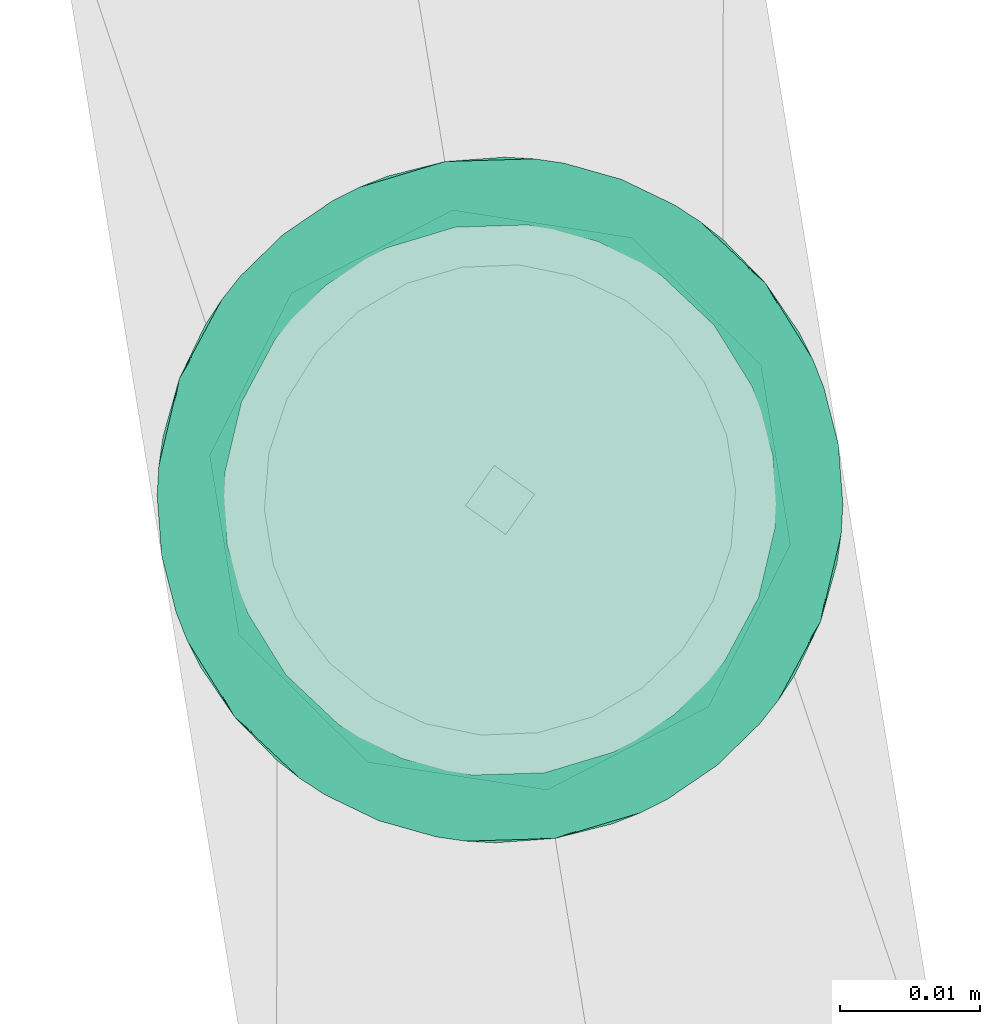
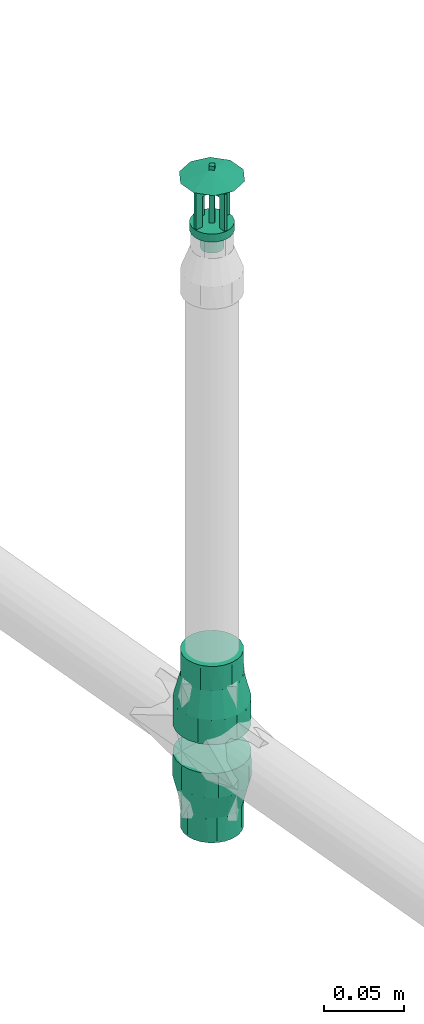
# One storey, part 34 of 56: 2 flow fittings, 1 flow terminal.
"""IFC2X3 building model written with IfcOpenShell, lengths in millimetres."""

from ifc_helpers import new_model, entity, si_unit, converted_unit, derived_unit, direction, frame, origin, origin_with_axes, place, context, subcontext, project, spatial, faceted_brep, source, transform, mapped, material, type_object, element, save


model = new_model("IFC2X3")

# Units and contexts
model_context = context("Model", 3, precision=0.01, world=origin(), true_north=direction((6.12323399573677e-17, 1.0)))
plan_context = context("Plan", 3, precision=1e-05, world=origin_with_axes())
body_context = subcontext(model_context, "Body", "Model", "MODEL_VIEW")
ifc_project = project(units=[converted_unit("PLANEANGLEUNIT", "DEGREE", entity("IfcPositiveLengthMeasure", 0.0174532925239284), si_unit("PLANEANGLEUNIT", "RADIAN"), dimensions=[0, 0, 0, 0, 0, 0, 0]), si_unit("AREAUNIT", "SQUARE_METRE"), si_unit("LENGTHUNIT", "METRE", prefix="MILLI"), si_unit("MASSUNIT", "GRAM", prefix="KILO"), si_unit("POWERUNIT", "WATT"), si_unit("PRESSUREUNIT", "PASCAL", prefix="KILO"), si_unit("FORCEUNIT", "NEWTON", prefix="KILO"), si_unit("ELECTRICVOLTAGEUNIT", "VOLT"), si_unit("ELECTRICCURRENTUNIT", "AMPERE"), si_unit("THERMODYNAMICTEMPERATUREUNIT", "DEGREE_CELSIUS"), si_unit("TIMEUNIT", "SECOND"), si_unit("VOLUMEUNIT", "CUBIC_METRE"), derived_unit("LINEARVELOCITYUNIT", [(si_unit("LENGTHUNIT", "METRE"), 1), (si_unit("TIMEUNIT", "SECOND"), -1)]), derived_unit("VOLUMETRICFLOWRATEUNIT", [(si_unit("VOLUMEUNIT", "CUBIC_METRE"), 1), (si_unit("TIMEUNIT", "SECOND"), -1)]), derived_unit("THERMALTRANSMITTANCEUNIT", [(si_unit("POWERUNIT", "WATT"), 1), (si_unit("THERMODYNAMICTEMPERATUREUNIT", "KELVIN"), -1), (si_unit("AREAUNIT", "SQUARE_METRE"), -1)]), derived_unit("SOUNDPRESSUREUNIT", [(si_unit("PRESSUREUNIT", "PASCAL"), 1)])], contexts=[model_context, plan_context])

# Site, building, storey
site_placement = place(None, frame((-3.09682673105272e-06, 1.93776733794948e-05, 0.0), z_axis=(0.0, 0.0, 1.0), x_axis=(-0.160806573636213, 0.986985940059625, 0.0)))
site = spatial("IfcSite", under=ifc_project, at=site_placement, Name="Default", CompositionType="ELEMENT")
building_placement = place(site_placement, frame((0.0, 0.0, 0.0), z_axis=(0.0, 0.0, 1.0), x_axis=(1.0, -2.77555756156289e-17, 0.0)))
building = spatial("IfcBuilding", under=site, at=building_placement, Name="Bygning (endres i Project Information)", CompositionType="ELEMENT")
storey_placement = place(building_placement, frame((0.0, 0.0, 51360.0000000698), z_axis=(0.0, 0.0, 1.0), x_axis=(1.0, -2.77555756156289e-17, 0.0)))
storey = spatial("IfcBuildingStorey", under=building, at=storey_placement, Name="H01-Nivå D+0,36", CompositionType="ELEMENT", Elevation=51360.0000000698)

# Flow fittings
ifc_material = material(Name="3320.001")
pipe_fitting_type_1 = type_object("IfcPipeFittingType", Name="RS_53_PIF_UN_Reducing-Socket-EN10241_MC_gen:RS_53_PIF_UN_Reducing-Socket-EN10241_MC_gen", PredefinedType="NOTDEFINED", material=ifc_material)
shared_shape_1 = source(origin(), body_context, "Body", "Brep", [
    faceted_brep([(0.0, 0.0, 24.5), (0.0, 6.34106660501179, 23.6651827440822), (0.0, 12.25, 21.2176223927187), (0.0, 17.3241161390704, 17.3241161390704), (0.0, 21.2176223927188, 12.25), (0.0, 23.6651827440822, 6.34106660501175), (0.0, 24.5, 0.0), (0.0, 23.6651827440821, -6.34106660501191), (0.0, 21.2176223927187, -12.2500000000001), (0.0, 17.3241161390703, -17.3241161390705), (0.0, 12.2499999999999, -21.2176223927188), (0.0, 6.34106660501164, -23.6651827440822), (0.0, 0.0, -24.5), (0.0, -6.34106660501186, -23.6651827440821), (0.0, -12.2500000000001, -21.2176223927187), (0.0, -17.3241161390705, -17.3241161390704), (0.0, -21.2176223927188, -12.2499999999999), (0.0, -23.6651827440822, -6.34106660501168), (0.0, -24.5, 0.0), (0.0, -23.6651827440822, 6.34106660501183), (0.0, -21.2176223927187, 12.2500000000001), (0.0, -17.3241161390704, 17.3241161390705), (0.0, -12.25, 21.2176223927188), (0.0, -6.34106660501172, 23.6651827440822), (18.6666666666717, -8.25137606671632, -22.6729794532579), (18.6666666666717, -18.7677686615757, -15.7486780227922), (18.6666666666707, -20.8950763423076, -12.0642027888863), (18.6666666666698, -23.0223840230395, -8.37972755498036), (18.6666666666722, -12.2493529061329, -21.2179959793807), (18.6666666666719, -15.5085607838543, -18.4833370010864), (18.6666666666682, -23.7125607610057, -4.46565710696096), (18.6666666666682, -23.7611920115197, -4.18986377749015), (18.6666666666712, -4.25339922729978, -24.1279629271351), (18.6666666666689, 4.25560674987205, -24.1275736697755), (18.6666666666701, 0.00110376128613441, -24.1277682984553), (18.6666666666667, -24.5, 0.0), (18.6666666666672, 8.25345045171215, -22.6722244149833), (18.6666666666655, 12.2512941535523, -21.2168751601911), (18.6666666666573, 23.0231506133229, -8.37762113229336), (18.6666666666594, 20.8961800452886, -12.062290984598), (18.6666666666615, 18.7692094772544, -15.7469608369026), (18.6666666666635, 15.5102518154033, -18.4819179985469), (18.6666666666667, 24.5, 0.0), (18.6666666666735, 18.7692094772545, 15.7469608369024), (18.666666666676, 20.8961800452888, 12.0622909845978), (18.6666666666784, 23.023150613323, 8.3776211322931), (18.6666666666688, 12.2512941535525, 21.216875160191), (18.6666666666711, 15.5102518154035, 18.4819179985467), (18.6666666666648, 4.25560674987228, 24.1275736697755), (18.6666666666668, 8.25345045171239, 22.6722244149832), (18.6666666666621, -4.25339922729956, 24.1279629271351), (18.6666666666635, 0.00110376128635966, 24.1277682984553), (18.6666666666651, -23.7611920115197, 4.1898637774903), (18.6666666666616, -8.25137606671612, 22.672979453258), (18.666666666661, -12.2493529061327, 21.2179959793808), (18.6666666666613, -15.5085607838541, 18.4833370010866), (18.6666666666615, -18.7677686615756, 15.7486780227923), (18.6666666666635, -23.0223840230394, 8.37972755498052), (18.6666666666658, -23.7125607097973, 4.46565739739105), (18.6666666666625, -20.8950763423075, 12.0642027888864), (37.3333333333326, 19.750000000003, 0.0), (37.3333333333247, 18.5595959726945, -6.75306577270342), (37.3333333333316, 9.87626627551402, -17.1032705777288), (37.3333333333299, 12.5033702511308, -14.8985095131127), (37.3333333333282, 15.1304742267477, -12.6937484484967), (37.3333333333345, 3.43075149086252, -19.4497414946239), (37.333333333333, 6.65350888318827, -18.2765060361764), (37.3333333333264, 16.8450350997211, -9.72340711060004), (37.3333333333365, -3.42859151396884, -19.4501223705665), (37.3333333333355, 0.00107998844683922, -19.4499319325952), (37.3333333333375, -9.87436684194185, -17.1043672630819), (37.333333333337, -6.65147917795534, -18.2772448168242), (37.3333333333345, -19.1544229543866, -3.37756341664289), (37.3333333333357, -18.558845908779, -6.75512683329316), (37.3333333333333, -19.7499999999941, 0.0), (37.3333333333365, -16.8439551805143, -9.72527774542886), (37.3333333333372, -15.1290644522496, -12.6954286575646), (37.3333333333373, -12.5017156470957, -14.8998979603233), (37.3333333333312, -18.5588459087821, 6.755126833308), (37.3333333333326, -19.1544229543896, 3.37756341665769), (37.3333333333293, -15.1290644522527, 12.6954286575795), (37.3333333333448, 18.559595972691, 6.75306577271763), (37.3333333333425, 16.8450350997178, 9.72340711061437), (37.3333333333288, -9.87436684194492, 17.104367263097), (37.3333333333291, -12.5017156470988, 14.8998979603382), (37.3333333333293, -6.65147917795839, 18.2772448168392), (37.3333333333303, -16.8439551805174, 9.72527774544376), (37.333333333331, 0.00107998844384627, 19.4499319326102), (37.3333333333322, 3.43075149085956, 19.4497414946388), (37.3333333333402, 15.1304742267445, 12.6937484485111), (37.333333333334, 6.65350888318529, 18.2765060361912), (37.3333333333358, 9.87626627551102, 17.1032705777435), (37.333333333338, 12.5033702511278, 14.8985095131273), (37.3333333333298, -3.42859151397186, 19.4501223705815), (56.0, 5.11167614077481, -19.0770350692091), (56.0, 9.87500000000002, -17.1040017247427), (56.0, 13.9653589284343, -13.9653589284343), (56.0, 17.1040017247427, -9.87499999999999), (56.0, 19.0770350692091, -5.11167614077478), (56.0, 19.75, 0.0), (56.0, 19.0770350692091, 5.1116761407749), (56.0, 17.1040017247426, 9.8750000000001), (56.0, 13.9653589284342, 13.9653589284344), (56.0, 9.87499999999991, 17.1040017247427), (56.0, 5.11167614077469, 19.0770350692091), (56.0, 0.0, 19.75), (56.0, -5.11167614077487, 19.0770350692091), (56.0, -9.87500000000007, 17.1040017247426), (56.0, -13.9653589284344, 13.9653589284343), (56.0, -17.1040017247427, 9.87499999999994), (56.0, -19.0770350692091, 5.11167614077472), (56.0, -19.75, 0.0), (56.0, -19.0770350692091, -5.11167614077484), (56.0, -17.1040017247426, -9.87500000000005), (56.0, -13.9653589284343, -13.9653589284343), (56.0, -9.87499999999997, -17.1040017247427), (56.0, -5.11167614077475, -19.0770350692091), (56.0, 0.0, -19.75)], [[[0, 1, 2, 3, 4, 5, 6, 7, 8, 9, 10, 11, 12, 13, 14, 15, 16, 17, 18, 19, 20, 21, 22, 23]], [[24, 14, 13]], [[16, 15, 25]], [[16, 25, 26, 27]], [[28, 29, 14]], [[17, 27, 30, 31]], [[31, 18, 17]], [[16, 27, 17]], [[13, 32, 24]], [[25, 15, 29]], [[12, 33, 34, 32]], [[24, 28, 14]], [[14, 29, 15]], [[31, 35, 18]], [[33, 12, 11]], [[36, 10, 37]], [[8, 38, 39, 40]], [[10, 36, 11]], [[8, 7, 38]], [[9, 40, 41]], [[33, 11, 36]], [[8, 40, 9]], [[41, 37, 10]], [[7, 42, 38]], [[7, 6, 42]], [[12, 32, 13]], [[41, 10, 9]], [[42, 6, 5]], [[4, 3, 43]], [[4, 43, 44, 45]], [[46, 47, 2]], [[45, 42, 5]], [[1, 48, 49]], [[43, 3, 47]], [[0, 50, 51, 48]], [[2, 47, 3]], [[50, 0, 23]], [[0, 48, 1]], [[18, 52, 19]], [[53, 22, 54]], [[49, 2, 1]], [[55, 22, 21]], [[35, 52, 18]], [[4, 45, 5]], [[22, 53, 23]], [[21, 56, 55]], [[50, 23, 53]], [[49, 46, 2]], [[20, 56, 21]], [[57, 20, 19]], [[19, 52, 58, 57]], [[55, 54, 22]], [[59, 56, 20, 57]], [[42, 60, 61]], [[41, 62, 37]], [[63, 40, 64]], [[40, 39, 64]], [[33, 36, 65]], [[65, 36, 66]], [[38, 42, 61]], [[64, 39, 67]], [[41, 40, 63]], [[36, 37, 66]], [[62, 41, 63]], [[38, 67, 39]], [[68, 34, 69]], [[68, 32, 34]], [[24, 70, 28]], [[32, 68, 71]], [[72, 35, 31, 30]], [[73, 27, 26]], [[72, 74, 35]], [[26, 75, 73]], [[76, 25, 29]], [[29, 77, 76]], [[70, 24, 71]], [[24, 32, 71]], [[70, 77, 28]], [[76, 75, 25]], [[28, 77, 29]], [[25, 75, 26]], [[73, 30, 27]], [[30, 73, 72]], [[66, 37, 62]], [[69, 34, 33]], [[69, 33, 65]], [[67, 38, 61]], [[78, 58, 79]], [[80, 55, 56]], [[81, 45, 82]], [[78, 59, 57]], [[83, 53, 54]], [[55, 80, 84]], [[79, 58, 52, 35]], [[78, 57, 58]], [[84, 54, 55]], [[85, 50, 53]], [[79, 35, 74]], [[86, 56, 59]], [[84, 83, 54]], [[48, 87, 88]], [[49, 48, 88]], [[59, 78, 86]], [[53, 83, 85]], [[87, 48, 51]], [[81, 60, 42]], [[44, 43, 89]], [[90, 46, 49]], [[47, 46, 91]], [[86, 80, 56]], [[82, 45, 44]], [[49, 88, 90]], [[92, 43, 47]], [[91, 46, 90]], [[51, 50, 93]], [[42, 45, 81]], [[85, 93, 50]], [[44, 89, 82]], [[51, 93, 87]], [[47, 91, 92]], [[89, 43, 92]], [[94, 95, 96, 97, 98, 99, 100, 101, 102, 103, 104, 105, 106, 107, 108, 109, 110, 111, 112, 113, 114, 115, 116, 117]], [[60, 99, 98]], [[97, 96, 64]], [[97, 64, 67, 61]], [[62, 63, 95]], [[61, 60, 98]], [[94, 65, 66]], [[64, 96, 63]], [[117, 68, 69, 65]], [[95, 63, 96]], [[117, 116, 68]], [[77, 70, 115]], [[66, 95, 94]], [[115, 70, 71]], [[113, 112, 73]], [[115, 71, 116]], [[117, 65, 94]], [[97, 61, 98]], [[72, 111, 74]], [[71, 68, 116]], [[113, 76, 114]], [[114, 76, 77]], [[77, 115, 114]], [[113, 73, 75, 76]], [[111, 72, 112]], [[66, 62, 95]], [[72, 73, 112]], [[85, 107, 106]], [[109, 108, 80]], [[109, 80, 86, 78]], [[83, 84, 107]], [[110, 78, 79]], [[79, 111, 110]], [[109, 78, 110]], [[106, 93, 85]], [[80, 108, 84]], [[105, 88, 87, 93]], [[85, 83, 107]], [[107, 84, 108]], [[79, 74, 111]], [[88, 105, 104]], [[90, 103, 91]], [[101, 81, 82, 89]], [[103, 90, 104]], [[101, 100, 81]], [[102, 89, 92]], [[88, 104, 90]], [[101, 89, 102]], [[92, 91, 103]], [[100, 60, 81]], [[100, 99, 60]], [[105, 93, 106]], [[92, 103, 102]]]),
])
flow_fitting_1_placement = place(storey_placement, frame((1000236.26325463, -386286.663841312, 3380.93333333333), z_axis=(2.77555756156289e-17, 1.0, 0.0), x_axis=(0.0, 0.0, 1.0)))
element("IfcFlowFitting", 1, at=flow_fitting_1_placement, inside=storey, type_object=pipe_fitting_type_1, material=ifc_material, Name="RS_53_PIF_UN_Reducing-Socket-EN10241_MC_gen:RS_53_PIF_UN_Reducing-Socket-EN10241_MC_gen", ObjectType="RS_53_PIF_UN_Reducing-Socket-EN10241_MC_gen:RS_53_PIF_UN_Reducing-Socket-EN10241_MC_gen", context=body_context, shape_type="MappedRepresentation", body=[
    mapped(shared_shape_1, transform((0.0, 0.0, 0.0), scale=1.0)),
])
pipe_fitting_type_2 = type_object("IfcPipeFittingType", Name="RS_53_PIF_UN_Reducing-Socket-EN10241_MC_gen:RS_53_PIF_UN_Reducing-Socket-EN10241_MC_gen", PredefinedType="NOTDEFINED", material=ifc_material)
shared_shape_2 = source(origin(), body_context, "Body", "Brep", [
    faceted_brep([(0.0, -12.25, 21.2176223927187), (0.0, -6.34106660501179, 23.6651827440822), (0.0, 0.0, 24.5), (0.0, 6.34106660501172, 23.6651827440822), (0.0, 12.25, 21.2176223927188), (0.0, 17.3241161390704, 17.3241161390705), (0.0, 21.2176223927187, 12.2500000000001), (0.0, 23.6651827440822, 6.34106660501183), (0.0, 24.5, 0.0), (0.0, 23.6651827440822, -6.34106660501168), (0.0, 21.2176223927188, -12.2499999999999), (0.0, 17.3241161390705, -17.3241161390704), (0.0, 12.2500000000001, -21.2176223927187), (0.0, 6.34106660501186, -23.6651827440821), (0.0, 0.0, -24.5), (0.0, -6.34106660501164, -23.6651827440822), (0.0, -12.2499999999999, -21.2176223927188), (0.0, -17.3241161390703, -17.3241161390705), (0.0, -21.2176223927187, -12.2500000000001), (0.0, -23.6651827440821, -6.34106660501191), (0.0, -24.5, 0.0), (0.0, -23.6651827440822, 6.34106660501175), (0.0, -21.2176223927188, 12.25), (0.0, -17.3241161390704, 17.3241161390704), (18.6666666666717, 8.25137606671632, -22.6729794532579), (18.6666666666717, 18.7677686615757, -15.7486780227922), (18.6666666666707, 20.8950763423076, -12.0642027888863), (18.6666666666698, 23.0223840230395, -8.37972755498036), (18.6666666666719, 15.5085607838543, -18.4833370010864), (18.6666666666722, 12.2493529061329, -21.2179959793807), (18.6666666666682, 23.7611920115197, -4.18986377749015), (18.6666666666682, 23.7125607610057, -4.46565710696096), (18.6666666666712, 4.25339922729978, -24.1279629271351), (18.6666666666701, -0.00110376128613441, -24.1277682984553), (18.6666666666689, -4.25560674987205, -24.1275736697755), (18.6666666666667, 24.5, 0.0), (18.6666666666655, -12.2512941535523, -21.2168751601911), (18.6666666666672, -8.25345045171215, -22.6722244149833), (18.6666666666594, -20.8961800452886, -12.062290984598), (18.6666666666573, -23.0231506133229, -8.37762113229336), (18.6666666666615, -18.7692094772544, -15.7469608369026), (18.6666666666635, -15.5102518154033, -18.4819179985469), (18.6666666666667, -24.5, 0.0), (18.6666666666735, -18.7692094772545, 15.7469608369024), (18.666666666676, -20.8961800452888, 12.0622909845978), (18.6666666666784, -23.023150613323, 8.3776211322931), (18.6666666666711, -15.5102518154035, 18.4819179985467), (18.6666666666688, -12.2512941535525, 21.216875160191), (18.6666666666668, -8.25345045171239, 22.6722244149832), (18.6666666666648, -4.25560674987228, 24.1275736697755), (18.6666666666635, -0.00110376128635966, 24.1277682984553), (18.6666666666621, 4.25339922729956, 24.1279629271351), (18.6666666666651, 23.7611920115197, 4.1898637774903), (18.666666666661, 12.2493529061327, 21.2179959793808), (18.6666666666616, 8.25137606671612, 22.672979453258), (18.6666666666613, 15.5085607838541, 18.4833370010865), (18.6666666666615, 18.7677686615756, 15.7486780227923), (18.6666666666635, 23.0223840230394, 8.37972755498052), (18.6666666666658, 23.7125607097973, 4.46565739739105), (18.6666666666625, 20.8950763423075, 12.0642027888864), (37.3333333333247, -18.5595959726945, -6.75306577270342), (37.3333333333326, -19.750000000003, 0.0), (37.3333333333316, -9.87626627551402, -17.1032705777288), (37.3333333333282, -15.1304742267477, -12.6937484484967), (37.3333333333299, -12.5033702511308, -14.8985095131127), (37.3333333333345, -3.43075149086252, -19.4497414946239), (37.333333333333, -6.65350888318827, -18.2765060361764), (37.3333333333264, -16.8450350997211, -9.72340711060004), (37.3333333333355, -0.00107998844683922, -19.4499319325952), (37.3333333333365, 3.42859151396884, -19.4501223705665), (37.3333333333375, 9.87436684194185, -17.1043672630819), (37.333333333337, 6.65147917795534, -18.2772448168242), (37.3333333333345, 19.1544229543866, -3.37756341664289), (37.3333333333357, 18.558845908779, -6.75512683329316), (37.3333333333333, 19.7499999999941, 0.0), (37.3333333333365, 16.8439551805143, -9.72527774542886), (37.3333333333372, 15.1290644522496, -12.6954286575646), (37.3333333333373, 12.5017156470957, -14.8998979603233), (37.3333333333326, 19.1544229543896, 3.37756341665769), (37.3333333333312, 18.5588459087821, 6.755126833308), (37.3333333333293, 15.1290644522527, 12.6954286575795), (37.3333333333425, -16.8450350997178, 9.72340711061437), (37.3333333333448, -18.559595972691, 6.75306577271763), (37.3333333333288, 9.87436684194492, 17.104367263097), (37.3333333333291, 12.5017156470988, 14.8998979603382), (37.3333333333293, 6.65147917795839, 18.2772448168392), (37.3333333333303, 16.8439551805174, 9.72527774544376), (37.3333333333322, -3.43075149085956, 19.4497414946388), (37.333333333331, -0.00107998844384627, 19.4499319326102), (37.3333333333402, -15.1304742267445, 12.6937484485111), (37.333333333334, -6.65350888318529, 18.2765060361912), (37.3333333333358, -9.87626627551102, 17.1032705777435), (37.333333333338, -12.5033702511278, 14.8985095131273), (37.3333333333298, 3.42859151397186, 19.4501223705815), (56.0, 0.0, -19.75), (56.0, 5.11167614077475, -19.0770350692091), (56.0, 9.87499999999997, -17.1040017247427), (56.0, 13.9653589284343, -13.9653589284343), (56.0, 17.1040017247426, -9.87500000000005), (56.0, 19.0770350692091, -5.11167614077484), (56.0, 19.75, 0.0), (56.0, 19.0770350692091, 5.11167614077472), (56.0, 17.1040017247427, 9.87499999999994), (56.0, 13.9653589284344, 13.9653589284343), (56.0, 9.87500000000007, 17.1040017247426), (56.0, 5.11167614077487, 19.0770350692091), (56.0, 0.0, 19.75), (56.0, -5.11167614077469, 19.0770350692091), (56.0, -9.87499999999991, 17.1040017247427), (56.0, -13.9653589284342, 13.9653589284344), (56.0, -17.1040017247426, 9.8750000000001), (56.0, -19.0770350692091, 5.1116761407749), (56.0, -19.75, 0.0), (56.0, -19.0770350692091, -5.11167614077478), (56.0, -17.1040017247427, -9.87499999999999), (56.0, -13.9653589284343, -13.9653589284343), (56.0, -9.87500000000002, -17.1040017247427), (56.0, -5.11167614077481, -19.0770350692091)], [[[0, 1, 2, 3, 4, 5, 6, 7, 8, 9, 10, 11, 12, 13, 14, 15, 16, 17, 18, 19, 20, 21, 22, 23]], [[13, 12, 24]], [[25, 11, 10]], [[26, 25, 10, 27]], [[12, 28, 29]], [[9, 30, 31, 27]], [[9, 8, 30]], [[9, 27, 10]], [[24, 32, 13]], [[28, 11, 25]], [[33, 34, 14, 32]], [[12, 29, 24]], [[11, 28, 12]], [[8, 35, 30]], [[15, 14, 34]], [[36, 16, 37]], [[38, 39, 18, 40]], [[15, 37, 16]], [[39, 19, 18]], [[41, 40, 17]], [[37, 15, 34]], [[17, 40, 18]], [[16, 36, 41]], [[39, 42, 19]], [[42, 20, 19]], [[13, 32, 14]], [[17, 16, 41]], [[21, 20, 42]], [[43, 23, 22]], [[44, 43, 22, 45]], [[0, 46, 47]], [[21, 42, 45]], [[48, 49, 1]], [[46, 23, 43]], [[50, 51, 2, 49]], [[23, 46, 0]], [[3, 2, 51]], [[1, 49, 2]], [[7, 52, 8]], [[53, 4, 54]], [[1, 0, 48]], [[5, 4, 55]], [[8, 52, 35]], [[21, 45, 22]], [[3, 54, 4]], [[55, 56, 5]], [[54, 3, 51]], [[0, 47, 48]], [[5, 56, 6]], [[7, 6, 57]], [[7, 57, 58, 52]], [[4, 53, 55]], [[6, 56, 59, 57]], [[60, 61, 42]], [[36, 62, 41]], [[63, 40, 64]], [[63, 38, 40]], [[65, 37, 34]], [[66, 37, 65]], [[60, 42, 39]], [[67, 38, 63]], [[64, 40, 41]], [[66, 36, 37]], [[64, 41, 62]], [[38, 67, 39]], [[68, 33, 69]], [[33, 32, 69]], [[29, 70, 24]], [[71, 69, 32]], [[72, 31, 30, 35]], [[26, 27, 73]], [[35, 74, 72]], [[73, 75, 26]], [[28, 25, 76]], [[76, 77, 28]], [[71, 24, 70]], [[71, 32, 24]], [[29, 77, 70]], [[25, 75, 76]], [[28, 77, 29]], [[26, 75, 25]], [[27, 31, 73]], [[72, 73, 31]], [[62, 36, 66]], [[34, 33, 68]], [[65, 34, 68]], [[60, 39, 67]], [[78, 58, 79]], [[56, 55, 80]], [[81, 45, 82]], [[57, 59, 79]], [[53, 54, 83]], [[84, 80, 55]], [[78, 35, 52, 58]], [[58, 57, 79]], [[55, 53, 84]], [[54, 51, 85]], [[74, 35, 78]], [[59, 56, 86]], [[53, 83, 84]], [[87, 88, 49]], [[87, 49, 48]], [[86, 79, 59]], [[85, 83, 54]], [[50, 49, 88]], [[42, 61, 82]], [[89, 43, 44]], [[48, 47, 90]], [[91, 47, 46]], [[56, 80, 86]], [[44, 45, 81]], [[90, 87, 48]], [[46, 43, 92]], [[90, 47, 91]], [[93, 51, 50]], [[82, 45, 42]], [[51, 93, 85]], [[81, 89, 44]], [[88, 93, 50]], [[92, 91, 46]], [[92, 43, 89]], [[94, 95, 96, 97, 98, 99, 100, 101, 102, 103, 104, 105, 106, 107, 108, 109, 110, 111, 112, 113, 114, 115, 116, 117]], [[113, 112, 61]], [[63, 115, 114]], [[67, 63, 114, 60]], [[116, 64, 62]], [[113, 61, 60]], [[66, 65, 117]], [[64, 115, 63]], [[68, 69, 94, 65]], [[115, 64, 116]], [[69, 95, 94]], [[96, 70, 77]], [[117, 116, 66]], [[71, 70, 96]], [[73, 99, 98]], [[95, 71, 96]], [[117, 65, 94]], [[113, 60, 114]], [[74, 100, 72]], [[95, 69, 71]], [[97, 76, 98]], [[77, 76, 97]], [[97, 96, 77]], [[75, 73, 98, 76]], [[99, 72, 100]], [[116, 62, 66]], [[99, 73, 72]], [[105, 104, 85]], [[80, 103, 102]], [[86, 80, 102, 79]], [[104, 84, 83]], [[78, 79, 101]], [[101, 100, 78]], [[101, 79, 102]], [[85, 93, 105]], [[84, 103, 80]], [[88, 87, 106, 93]], [[104, 83, 85]], [[103, 84, 104]], [[100, 74, 78]], [[107, 106, 87]], [[91, 108, 90]], [[81, 82, 110, 89]], [[107, 90, 108]], [[82, 111, 110]], [[92, 89, 109]], [[90, 107, 87]], [[109, 89, 110]], [[108, 91, 92]], [[82, 61, 111]], [[61, 112, 111]], [[105, 93, 106]], [[109, 108, 92]]]),
])
flow_fitting_2_placement = place(storey_placement, frame((1000236.26325463, -386286.663841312, 3359.06666666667), z_axis=(1.0, -2.77555756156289e-17, 0.0), x_axis=(0.0, 0.0, -1.0)))
element("IfcFlowFitting", 2, at=flow_fitting_2_placement, inside=storey, type_object=pipe_fitting_type_2, material=ifc_material, Name="RS_53_PIF_UN_Reducing-Socket-EN10241_MC_gen:RS_53_PIF_UN_Reducing-Socket-EN10241_MC_gen", ObjectType="RS_53_PIF_UN_Reducing-Socket-EN10241_MC_gen:RS_53_PIF_UN_Reducing-Socket-EN10241_MC_gen", context=body_context, shape_type="MappedRepresentation", body=[
    mapped(shared_shape_2, transform((0.0, 0.0, 0.0), scale=1.0)),
])

# Flow terminal
fire_suppression_terminal_type = type_object("IfcFireSuppressionTerminalType", Name="SU-15-K80-68DGR-STD:SU-15-K80-68DGR-STD", PredefinedType="NOTDEFINED", material=ifc_material)
shared_shape_3 = source(origin(), body_context, "Body", "Brep", [
    faceted_brep([(-2.5, 0.0, 62.0), (0.0, -2.5, 62.0), (2.5, 0.0, 62.0), (0.0, 2.5, 62.0), (-2.5, 0.0, 59.0), (0.0, 2.5, 59.0), (2.5, 0.0, 59.0), (0.0, -2.5, 59.0)], [[[0, 1, 2, 3]], [[4, 5, 6, 7]], [[0, 4, 7, 1]], [[7, 6, 2, 1]], [[2, 6, 5, 3]], [[5, 4, 0, 3]]]),
    faceted_brep([(1.0, -13.5, 47.0), (1.0, -13.5, 19.0), (1.0, -8.5, 19.0), (1.0, -8.5, 42.0), (1.0, 8.5, 42.0), (1.0, 8.5, 19.0), (1.0, 13.5, 19.0), (1.0, 13.5, 47.0), (-1.0, -13.5, 47.0), (-1.0, 13.5, 47.0), (-1.0, 13.5, 19.0), (-1.0, 8.5, 19.0), (-1.0, 8.5, 42.0), (-1.0, -8.5, 42.0), (-1.0, -8.5, 19.0), (-1.0, -13.5, 19.0)], [[[0, 1, 2, 3, 4, 5, 6, 7]], [[8, 9, 10, 11, 12, 13, 14, 15]], [[1, 0, 8, 15]], [[2, 1, 15, 14]], [[3, 2, 14, 13]], [[4, 3, 13, 12]], [[5, 4, 12, 11]], [[6, 5, 11, 10]], [[7, 6, 10, 9]], [[0, 7, 9, 8]]]),
    faceted_brep([(-13.5, 1.0, 47.0), (13.5, 1.0, 47.0), (13.5, 1.0, 19.0), (8.5, 1.0, 19.0), (8.5, 1.0, 42.0), (-8.5, 1.0, 42.0), (-8.5, 1.0, 19.0), (-13.5, 1.0, 19.0), (-13.5, -1.0, 47.0), (-13.5, -1.0, 19.0), (-8.5, -1.0, 19.0), (-8.5, -1.0, 42.0), (8.5, -1.0, 42.0), (8.5, -1.0, 19.0), (13.5, -1.0, 19.0), (13.5, -1.0, 47.0)], [[[0, 1, 2, 3, 4, 5, 6, 7]], [[8, 9, 10, 11, 12, 13, 14, 15]], [[1, 0, 8, 15]], [[2, 1, 15, 14]], [[3, 2, 14, 13]], [[4, 3, 13, 12]], [[5, 4, 12, 11]], [[6, 5, 11, 10]], [[7, 6, 10, 9]], [[0, 7, 9, 8]]]),
    faceted_brep([(0.0, 2.5, 59.0), (-2.5, 0.0, 59.0), (0.0, -2.5, 59.0), (2.5, 0.0, 59.0), (6.4893568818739, 19.9721868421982, 53.0), (16.9893568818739, 12.3434902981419, 53.0), (21.0, 0.0, 53.0), (16.989356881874, -12.3434902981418, 53.0), (6.48935688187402, -19.9721868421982, 53.0), (-6.48935688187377, -19.9721868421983, 53.0), (-16.9893568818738, -12.343490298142, 53.0), (-21.0, 0.0, 53.0), (-16.9893568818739, 12.3434902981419, 53.0), (-6.48935688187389, 19.9721868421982, 53.0)], [[[0, 1, 2, 3]], [[4, 5, 6, 7, 8, 9, 10, 11, 12, 13]], [[6, 3, 7]], [[2, 8, 7]], [[7, 3, 2]], [[2, 1, 10]], [[2, 10, 9]], [[10, 1, 11]], [[2, 9, 8]], [[11, 1, 12]], [[0, 13, 12]], [[12, 1, 0]], [[0, 3, 5]], [[0, 5, 4]], [[5, 3, 6]], [[0, 4, 13]]]),
    faceted_brep([(-2.5, 0.0, 53.0), (0.0, -2.5, 53.0), (2.5, 0.0, 53.0), (0.0, 2.5, 53.0), (-2.5, 0.0, 19.0), (0.0, 2.5, 19.0), (2.5, 0.0, 19.0), (0.0, -2.5, 19.0)], [[[0, 1, 2, 3]], [[4, 5, 6, 7]], [[0, 4, 7, 1]], [[7, 6, 2, 1]], [[2, 6, 5, 3]], [[5, 4, 0, 3]]]),
    faceted_brep([(3.62346663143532, -13.5229615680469, 19.0), (7.0, -12.1243556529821, 19.0), (9.89949493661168, -9.89949493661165, 19.0), (12.1243556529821, -7.0, 19.0), (13.522961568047, -3.62346663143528, 19.0), (14.0, 0.0, 19.0), (13.522961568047, 3.62346663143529, 19.0), (12.1243556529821, 7.0, 19.0), (9.89949493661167, 9.89949493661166, 19.0), (7.0, 12.1243556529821, 19.0), (3.62346663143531, 13.522961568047, 19.0), (0.0, 14.0, 19.0), (-3.62346663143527, 13.522961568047, 19.0), (-7.0, 12.1243556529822, 19.0), (-9.89949493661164, 9.89949493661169, 19.0), (-12.1243556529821, 7.0, 19.0), (-13.5229615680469, 3.62346663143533, 19.0), (-14.0, 0.0, 19.0), (-13.5229615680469, -3.62346663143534, 19.0), (-12.1243556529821, -7.0, 19.0), (-9.89949493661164, -9.89949493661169, 19.0), (-7.0, -12.1243556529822, 19.0), (-3.62346663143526, -13.522961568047, 19.0), (0.0, -14.0, 19.0), (9.89949493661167, 9.89949493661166, 13.0), (12.1243556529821, 7.0, 13.0), (13.522961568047, 3.62346663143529, 13.0), (14.0, 0.0, 13.0), (13.522961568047, -3.62346663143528, 13.0), (12.1243556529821, -7.0, 13.0), (9.89949493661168, -9.89949493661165, 13.0), (7.0, -12.1243556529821, 13.0), (3.62346663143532, -13.5229615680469, 13.0), (0.0, -14.0, 13.0), (-3.62346663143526, -13.522961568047, 13.0), (-7.0, -12.1243556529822, 13.0), (-9.89949493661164, -9.89949493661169, 13.0), (-12.1243556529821, -7.0, 13.0), (-13.5229615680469, -3.62346663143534, 13.0), (-14.0, 0.0, 13.0), (-13.5229615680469, 3.62346663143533, 13.0), (-12.1243556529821, 7.0, 13.0), (-9.89949493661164, 9.89949493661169, 13.0), (-7.0, 12.1243556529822, 13.0), (-3.62346663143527, 13.522961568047, 13.0), (0.0, 14.0, 13.0), (3.62346663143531, 13.522961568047, 13.0), (7.0, 12.1243556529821, 13.0)], [[[0, 1, 2, 3, 4, 5, 6, 7, 8, 9, 10, 11, 12, 13, 14, 15, 16, 17, 18, 19, 20, 21, 22, 23]], [[24, 25, 26, 27, 28, 29, 30, 31, 32, 33, 34, 35, 36, 37, 38, 39, 40, 41, 42, 43, 44, 45, 46, 47]], [[38, 18, 17, 39]], [[37, 19, 18, 38]], [[21, 20, 36, 35]], [[37, 36, 20, 19]], [[22, 21, 35, 34]], [[23, 22, 34, 33]], [[32, 0, 23, 33]], [[31, 1, 0, 32]], [[3, 2, 30, 29]], [[31, 30, 2, 1]], [[4, 3, 29, 28]], [[5, 4, 28, 27]], [[26, 6, 5, 27]], [[25, 7, 6, 26]], [[9, 8, 24, 47]], [[25, 24, 8, 7]], [[10, 9, 47, 46]], [[11, 10, 46, 45]], [[44, 12, 11, 45]], [[43, 13, 12, 44]], [[15, 14, 42, 41]], [[43, 42, 14, 13]], [[16, 15, 41, 40]], [[17, 16, 40, 39]]]),
    faceted_brep([(1.94114283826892, -7.24444369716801, 13.0), (3.75000000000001, -6.49519052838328, 13.0), (5.30330085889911, -5.3033008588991, 13.0), (6.49519052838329, -3.75, 13.0), (7.24444369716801, -1.9411428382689, 13.0), (7.5, 0.0, 13.0), (7.24444369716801, 1.9411428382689, 13.0), (6.49519052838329, 3.75, 13.0), (5.30330085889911, 5.3033008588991, 13.0), (3.75000000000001, 6.49519052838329, 13.0), (1.94114283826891, 7.24444369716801, 13.0), (0.0, 7.5, 13.0), (-1.94114283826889, 7.24444369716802, 13.0), (-3.74999999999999, 6.4951905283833, 13.0), (-5.3033008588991, 5.30330085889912, 13.0), (-6.49519052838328, 3.75000000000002, 13.0), (-7.24444369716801, 1.94114283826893, 13.0), (-7.5, 0.0, 13.0), (-7.244443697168, -1.94114283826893, 13.0), (-6.49519052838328, -3.75000000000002, 13.0), (-5.30330085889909, -5.30330085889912, 13.0), (-3.74999999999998, -6.4951905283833, 13.0), (-1.94114283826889, -7.24444369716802, 13.0), (0.0, -7.5, 13.0), (5.30330085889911, 5.3033008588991, 0.0), (6.49519052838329, 3.75, 0.0), (7.24444369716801, 1.9411428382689, 0.0), (7.5, 0.0, 0.0), (7.24444369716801, -1.9411428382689, 0.0), (6.49519052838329, -3.75, 0.0), (5.30330085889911, -5.3033008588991, 0.0), (3.75000000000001, -6.49519052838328, 0.0), (1.94114283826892, -7.24444369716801, 0.0), (0.0, -7.5, 0.0), (-1.94114283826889, -7.24444369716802, 0.0), (-3.74999999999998, -6.4951905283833, 0.0), (-5.30330085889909, -5.30330085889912, 0.0), (-6.49519052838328, -3.75000000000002, 0.0), (-7.244443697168, -1.94114283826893, 0.0), (-7.5, 0.0, 0.0), (-7.24444369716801, 1.94114283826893, 0.0), (-6.49519052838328, 3.75000000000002, 0.0), (-5.3033008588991, 5.30330085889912, 0.0), (-3.74999999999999, 6.4951905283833, 0.0), (-1.94114283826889, 7.24444369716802, 0.0), (0.0, 7.5, 0.0), (1.94114283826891, 7.24444369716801, 0.0), (3.75000000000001, 6.49519052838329, 0.0)], [[[0, 1, 2, 3, 4, 5, 6, 7, 8, 9, 10, 11, 12, 13, 14, 15, 16, 17, 18, 19, 20, 21, 22, 23]], [[24, 25, 26, 27, 28, 29, 30, 31, 32, 33, 34, 35, 36, 37, 38, 39, 40, 41, 42, 43, 44, 45, 46, 47]], [[38, 18, 17, 39]], [[37, 19, 18, 38]], [[21, 20, 36, 35]], [[37, 36, 20, 19]], [[22, 21, 35, 34]], [[23, 22, 34, 33]], [[32, 0, 23, 33]], [[31, 1, 0, 32]], [[3, 2, 30, 29]], [[31, 30, 2, 1]], [[4, 3, 29, 28]], [[5, 4, 28, 27]], [[26, 6, 5, 27]], [[25, 7, 6, 26]], [[9, 8, 24, 47]], [[25, 24, 8, 7]], [[10, 9, 47, 46]], [[11, 10, 46, 45]], [[44, 12, 11, 45]], [[43, 13, 12, 44]], [[15, 14, 42, 41]], [[43, 42, 14, 13]], [[16, 15, 41, 40]], [[17, 16, 40, 39]]]),
])
flow_terminal_placement = place(storey_placement, frame((1000236.26325463, -386286.663841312, 3741.99999993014), z_axis=(0.0, 0.0, 1.0), x_axis=(-1.0, 2.77555756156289e-17, 0.0)))
element("IfcFlowTerminal", 3, at=flow_terminal_placement, inside=storey, type_object=fire_suppression_terminal_type, material=ifc_material, Name="SU-15-K80-68DGR-STD:SU-15-K80-68DGR-STD", ObjectType="SU-15-K80-68DGR-STD:SU-15-K80-68DGR-STD", context=body_context, shape_type="MappedRepresentation", body=[
    mapped(shared_shape_3, transform((0.0, 0.0, 0.0), scale=1.0)),
])

save(model, "model.ifc")
